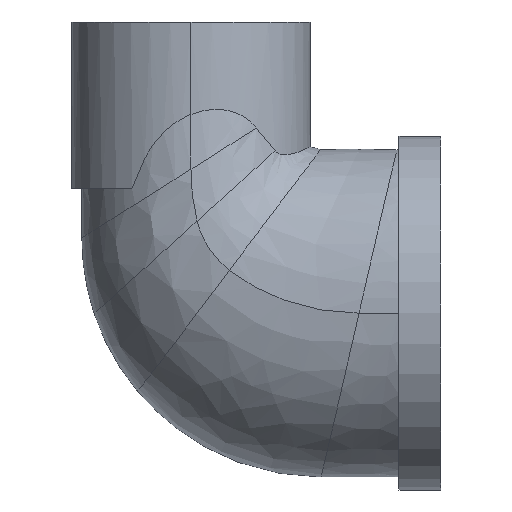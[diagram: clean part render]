
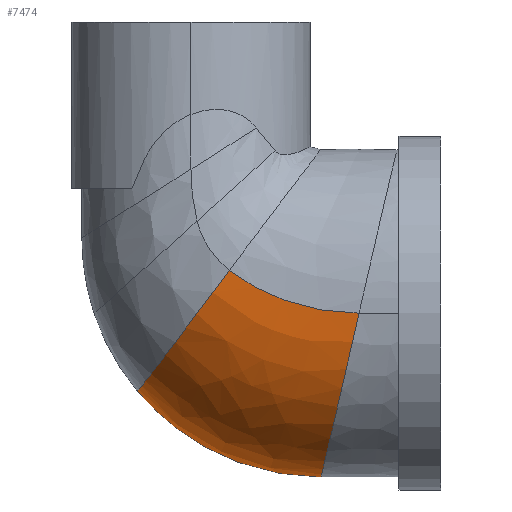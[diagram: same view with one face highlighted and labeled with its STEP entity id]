
A CAD part, front view. The second image highlights one B-rep face of the part: STEP entity #7474.
In plain terms, the highlighted free-form (B-spline) face has degree [3, 3] with [7, 7] control points.
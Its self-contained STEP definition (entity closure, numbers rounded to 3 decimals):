
#230 = VERTEX_POINT ( 'NONE', #397 ) ;
#358 = CARTESIAN_POINT ( 'NONE',  ( -5.132, -1.744, -7.519 ) ) ;
#397 = CARTESIAN_POINT ( 'NONE',  ( -5.132, 0., -7.519 ) ) ;
#439 = B_SPLINE_CURVE_WITH_KNOTS ( 'NONE', 3,
 ( #5234, #7854, #493, #5204, #2288, #7747, #8147 ),
 .UNSPECIFIED., .F., .F.,
 ( 4, 1, 1, 1, 4 ),
 ( 0., 0.25, 0.5, 0.75, 1. ),
 .UNSPECIFIED. ) ;
#493 = CARTESIAN_POINT ( 'NONE',  ( 12.731, -14.481, 0.184 ) ) ;
#501 = CARTESIAN_POINT ( 'NONE',  ( 4.618, -10.227, -9.619 ) ) ;
#530 = CARTESIAN_POINT ( 'NONE',  ( 0.293, -12.631, -0.397 ) ) ;
#568 = CARTESIAN_POINT ( 'NONE',  ( 2.554, -13.324, 2.611 ) ) ;
#585 = CARTESIAN_POINT ( 'NONE',  ( -4.057, 0., -8.802 ) ) ;
#598 = CARTESIAN_POINT ( 'NONE',  ( 12.06, -14.481, -1.833 ) ) ;
#628 = CARTESIAN_POINT ( 'NONE',  ( -1.625, 0., -11.134 ) ) ;
#873 = CARTESIAN_POINT ( 'NONE',  ( 12.5, 0., -15.75 ) ) ;
#1068 = CARTESIAN_POINT ( 'NONE',  ( -2.623, -9.667, -4.255 ) ) ;
#1080 = VERTEX_POINT ( 'NONE', #2730 ) ;
#1183 = CARTESIAN_POINT ( 'NONE',  ( 8.564, -14.096, -0.911 ) ) ;
#1245 = CARTESIAN_POINT ( 'NONE',  ( -4.057, -1.761, -8.802 ) ) ;
#1276 = CARTESIAN_POINT ( 'NONE',  ( 5.331, -13.71, 0.571 ) ) ;
#1309 = CARTESIAN_POINT ( 'NONE',  ( 0.652, -9.947, -7.359 ) ) ;
#1342 = B_SPLINE_SURFACE_WITH_KNOTS ( 'NONE', 3, 3, ( 
 ( #5083, #2400, #4469, #3138, #8499, #5146, #5805 ),
 ( #6472, #2463, #7293, #1897, #2497, #4539, #7221 ),
 ( #5211, #598, #7258, #4665, #7324, #7861, #6641 ),
 ( #1961, #1183, #5339, #501, #5867, #5904, #5276 ),
 ( #6573, #1276, #3304, #1309, #1864, #5310, #628 ),
 ( #5995, #6541, #8637, #3240, #5244, #1245, #2629 ),
 ( #1989, #568, #530, #3205, #8567, #8665, #5935 ) ),
 .UNSPECIFIED., .F., .F., .F.,
 ( 4, 1, 1, 1, 4 ),
 ( 4, 1, 1, 1, 4 ),
 ( 0.168, 0.242, 0.315, 0.389, 0.462 ),
 ( 0.75, 0.813, 0.875, 0.938, 1. ),
 .UNSPECIFIED. ) ;
#1353 = ORIENTED_EDGE ( 'NONE', *, *, #8116, .F. ) ;
#1699 = CARTESIAN_POINT ( 'NONE',  ( 3.684, -13.324, 4.116 ) ) ;
#1864 = CARTESIAN_POINT ( 'NONE',  ( -1.169, -5.383, -10.394 ) ) ;
#1882 = CARTESIAN_POINT ( 'NONE',  ( -5.132, 0., -7.519 ) ) ;
#1897 = CARTESIAN_POINT ( 'NONE',  ( 12.024, -10.693, -11.359 ) ) ;
#1949 = CARTESIAN_POINT ( 'NONE',  ( 7.477, 0., -15.383 ) ) ;
#1961 = CARTESIAN_POINT ( 'NONE',  ( 9.425, -14.096, 0.996 ) ) ;
#1989 = CARTESIAN_POINT ( 'NONE',  ( 3.684, -13.324, 4.116 ) ) ;
#2288 = CARTESIAN_POINT ( 'NONE',  ( 6.352, -13.71, 2.308 ) ) ;
#2387 = CARTESIAN_POINT ( 'NONE',  ( 3.684, -13.324, 4.116 ) ) ;
#2400 = CARTESIAN_POINT ( 'NONE',  ( 15.689, -14.867, -2.046 ) ) ;
#2452 = CARTESIAN_POINT ( 'NONE',  ( -5.132, 0., -7.519 ) ) ;
#2463 = CARTESIAN_POINT ( 'NONE',  ( 14.479, -14.738, -2.044 ) ) ;
#2497 = CARTESIAN_POINT ( 'NONE',  ( 11.066, -5.787, -14.898 ) ) ;
#2629 = CARTESIAN_POINT ( 'NONE',  ( -4.057, 0., -8.802 ) ) ;
#2716 = EDGE_LOOP ( 'NONE', ( #7029, #6287, #1353, #3909 ) ) ;
#2730 = CARTESIAN_POINT ( 'NONE',  ( 16.157, -14.867, 0. ) ) ;
#2962 = CARTESIAN_POINT ( 'NONE',  ( 14.754, -14.093, -6.137 ) ) ;
#3138 = CARTESIAN_POINT ( 'NONE',  ( 13.546, -10.786, -11.368 ) ) ;
#3205 = CARTESIAN_POINT ( 'NONE',  ( -2.623, -9.667, -4.255 ) ) ;
#3240 = CARTESIAN_POINT ( 'NONE',  ( -1.611, -9.76, -5.356 ) ) ;
#3304 = CARTESIAN_POINT ( 'NONE',  ( 3.288, -12.996, -2.902 ) ) ;
#3437 = EDGE_CURVE ( 'NONE', #8568, #230, #5869, .T. ) ;
#3603 = EDGE_CURVE ( 'NONE', #4209, #230, #4409, .T. ) ;
#3748 = CARTESIAN_POINT ( 'NONE',  ( 0.293, -12.631, -0.397 ) ) ;
#3909 = ORIENTED_EDGE ( 'NONE', *, *, #5435, .T. ) ;
#4209 = VERTEX_POINT ( 'NONE', #5454 ) ;
#4409 = B_SPLINE_CURVE_WITH_KNOTS ( 'NONE', 3,
 ( #5952, #5231, #1949, #6590, #7309, #585, #1882 ),
 .UNSPECIFIED., .F., .F.,
 ( 4, 1, 1, 1, 4 ),
 ( 0., 0.25, 0.5, 0.75, 1. ),
 .UNSPECIFIED. ) ;
#4469 = CARTESIAN_POINT ( 'NONE',  ( 14.754, -14.093, -6.137 ) ) ;
#4539 = CARTESIAN_POINT ( 'NONE',  ( 10.826, -1.929, -15.75 ) ) ;
#4665 = CARTESIAN_POINT ( 'NONE',  ( 8.98, -10.507, -11.029 ) ) ;
#4859 = CARTESIAN_POINT ( 'NONE',  ( 15.689, -14.867, -2.046 ) ) ;
#5083 = CARTESIAN_POINT ( 'NONE',  ( 16.157, -14.867, 0. ) ) ;
#5146 = CARTESIAN_POINT ( 'NONE',  ( 12.5, -1.946, -15.75 ) ) ;
#5165 = CARTESIAN_POINT ( 'NONE',  ( -4.631, -5.232, -6.88 ) ) ;
#5204 = CARTESIAN_POINT ( 'NONE',  ( 9.425, -14.096, 0.996 ) ) ;
#5211 = CARTESIAN_POINT ( 'NONE',  ( 12.731, -14.481, 0.184 ) ) ;
#5231 = CARTESIAN_POINT ( 'NONE',  ( 10.826, 0., -15.75 ) ) ;
#5234 = CARTESIAN_POINT ( 'NONE',  ( 16.157, -14.867, 0. ) ) ;
#5244 = CARTESIAN_POINT ( 'NONE',  ( -3.568, -5.282, -8.128 ) ) ;
#5276 = CARTESIAN_POINT ( 'NONE',  ( 2.693, 0., -13.757 ) ) ;
#5310 = CARTESIAN_POINT ( 'NONE',  ( -1.625, -1.795, -11.134 ) ) ;
#5339 = CARTESIAN_POINT ( 'NONE',  ( 6.842, -13.362, -4.726 ) ) ;
#5435 = EDGE_CURVE ( 'NONE', #1080, #8568, #439, .T. ) ;
#5454 = CARTESIAN_POINT ( 'NONE',  ( 12.5, 0., -15.75 ) ) ;
#5543 = CARTESIAN_POINT ( 'NONE',  ( 12.71, -5.837, -14.902 ) ) ;
#5626 = CARTESIAN_POINT ( 'NONE',  ( 12.5, -1.946, -15.75 ) ) ;
#5805 = CARTESIAN_POINT ( 'NONE',  ( 12.5, 0., -15.75 ) ) ;
#5821 = CARTESIAN_POINT ( 'NONE',  ( 2.554, -13.324, 2.611 ) ) ;
#5867 = CARTESIAN_POINT ( 'NONE',  ( 3.079, -5.535, -12.948 ) ) ;
#5869 = B_SPLINE_CURVE_WITH_KNOTS ( 'NONE', 3,
 ( #2387, #5821, #3748, #1068, #5165, #358, #2452 ),
 .UNSPECIFIED., .F., .F.,
 ( 4, 1, 1, 1, 4 ),
 ( 0., 0.25, 0.5, 0.75, 1. ),
 .UNSPECIFIED. ) ;
#5904 = CARTESIAN_POINT ( 'NONE',  ( 2.693, -1.845, -13.757 ) ) ;
#5935 = CARTESIAN_POINT ( 'NONE',  ( -5.132, 0., -7.519 ) ) ;
#5952 = CARTESIAN_POINT ( 'NONE',  ( 12.5, 0., -15.75 ) ) ;
#5995 = CARTESIAN_POINT ( 'NONE',  ( 4.526, -13.453, 3.474 ) ) ;
#6287 = ORIENTED_EDGE ( 'NONE', *, *, #3603, .F. ) ;
#6449 = FACE_OUTER_BOUND ( 'NONE', #2716, .T. ) ;
#6472 = CARTESIAN_POINT ( 'NONE',  ( 15.015, -14.738, 0. ) ) ;
#6541 = CARTESIAN_POINT ( 'NONE',  ( 3.426, -13.453, 1.887 ) ) ;
#6573 = CARTESIAN_POINT ( 'NONE',  ( 6.352, -13.71, 2.308 ) ) ;
#6590 = CARTESIAN_POINT ( 'NONE',  ( 2.693, 0., -13.757 ) ) ;
#6641 = CARTESIAN_POINT ( 'NONE',  ( 7.477, 0., -15.383 ) ) ;
#7029 = ORIENTED_EDGE ( 'NONE', *, *, #3437, .T. ) ;
#7221 = CARTESIAN_POINT ( 'NONE',  ( 10.826, 0., -15.75 ) ) ;
#7258 = CARTESIAN_POINT ( 'NONE',  ( 10.716, -13.727, -5.865 ) ) ;
#7293 = CARTESIAN_POINT ( 'NONE',  ( 13.408, -13.971, -6.131 ) ) ;
#7309 = CARTESIAN_POINT ( 'NONE',  ( -1.625, 0., -11.134 ) ) ;
#7324 = CARTESIAN_POINT ( 'NONE',  ( 7.779, -5.686, -14.535 ) ) ;
#7474 = ADVANCED_FACE ( 'NONE', ( #6449 ), #1342, .T. ) ;
#7576 = CARTESIAN_POINT ( 'NONE',  ( 13.546, -10.786, -11.368 ) ) ;
#7626 = CARTESIAN_POINT ( 'NONE',  ( 16.157, -14.867, 0. ) ) ;
#7747 = CARTESIAN_POINT ( 'NONE',  ( 4.526, -13.453, 3.474 ) ) ;
#7854 = CARTESIAN_POINT ( 'NONE',  ( 15.015, -14.738, 0. ) ) ;
#7861 = CARTESIAN_POINT ( 'NONE',  ( 7.477, -1.896, -15.383 ) ) ;
#8116 = EDGE_CURVE ( 'NONE', #1080, #4209, #8590, .T. ) ;
#8147 = CARTESIAN_POINT ( 'NONE',  ( 3.684, -13.324, 4.116 ) ) ;
#8499 = CARTESIAN_POINT ( 'NONE',  ( 12.71, -5.837, -14.902 ) ) ;
#8567 = CARTESIAN_POINT ( 'NONE',  ( -4.631, -5.232, -6.88 ) ) ;
#8568 = VERTEX_POINT ( 'NONE', #1699 ) ;
#8590 = B_SPLINE_CURVE_WITH_KNOTS ( 'NONE', 3,
 ( #7626, #4859, #2962, #7576, #5543, #5626, #873 ),
 .UNSPECIFIED., .F., .F.,
 ( 4, 1, 1, 1, 4 ),
 ( 0., 0.25, 0.5, 0.75, 1. ),
 .UNSPECIFIED. ) ;
#8637 = CARTESIAN_POINT ( 'NONE',  ( 1.227, -12.753, -1.286 ) ) ;
#8665 = CARTESIAN_POINT ( 'NONE',  ( -5.132, -1.744, -7.519 ) ) ;
